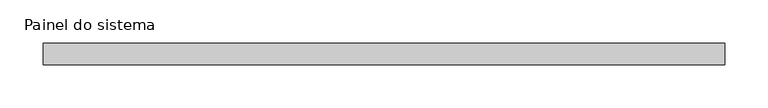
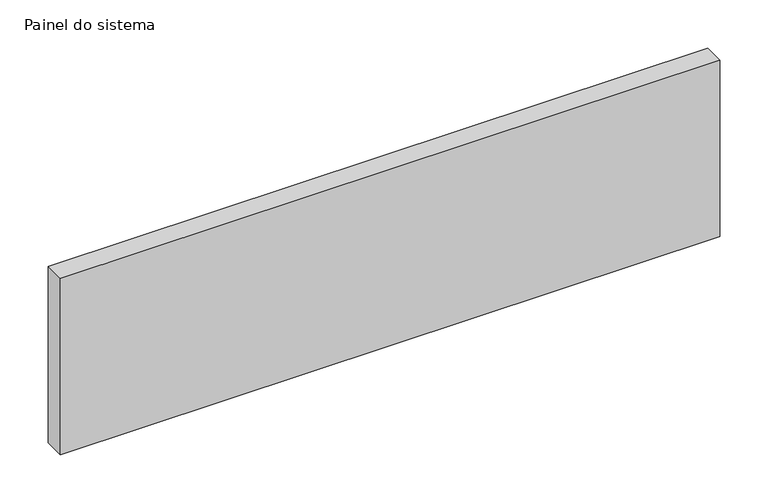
"""IFC4 building model written with IfcOpenShell, lengths in millimetres: plate geometry, Painel do sistema : Envidraçado."""

from ifc_helpers import new_model, si_unit, origin, origin_with_axes, place, context, project, spatial, polyline, outline, extrude, source, transform, mapped, element, save


def painel_do_sistema_f3de4001(model_context):
    return source(origin(), model_context, "Body", "SweptSolid", [
        extrude(outline(polyline([(395.0, 24.5), (-395.0, 24.5), (-395.0, 49.5), (395.0, 49.5), (395.0, 24.5)])), origin_with_axes(), (0.0, 0.0, 1.0), 223.6217085),
    ])


if __name__ == "__main__":
    model = new_model("IFC4")
    model_context = context("Model", 3, world=origin())
    ifc_project = project(units=[si_unit("LENGTHUNIT", "METRE", prefix="MILLI")], contexts=[model_context])
    site = spatial("IfcSite", under=ifc_project)
    building = spatial("IfcBuilding", under=site)
    placement = place(None, origin())
    painel_do_sistema_shape = painel_do_sistema_f3de4001(model_context)
    element("IfcPlate", 1, ObjectType="Painel do sistema : Envidraçado", at=placement, inside=building, context=model_context, shape_type="MappedRepresentation", body=[
        mapped(painel_do_sistema_shape, transform((0.0, 0.0, 0.0), x_axis=(1.0, 0.0, 0.0), y_axis=(0.0, 1.0, 0.0), z_axis=(0.0, 0.0, 1.0))),
    ])
    save(model, "model.ifc")
